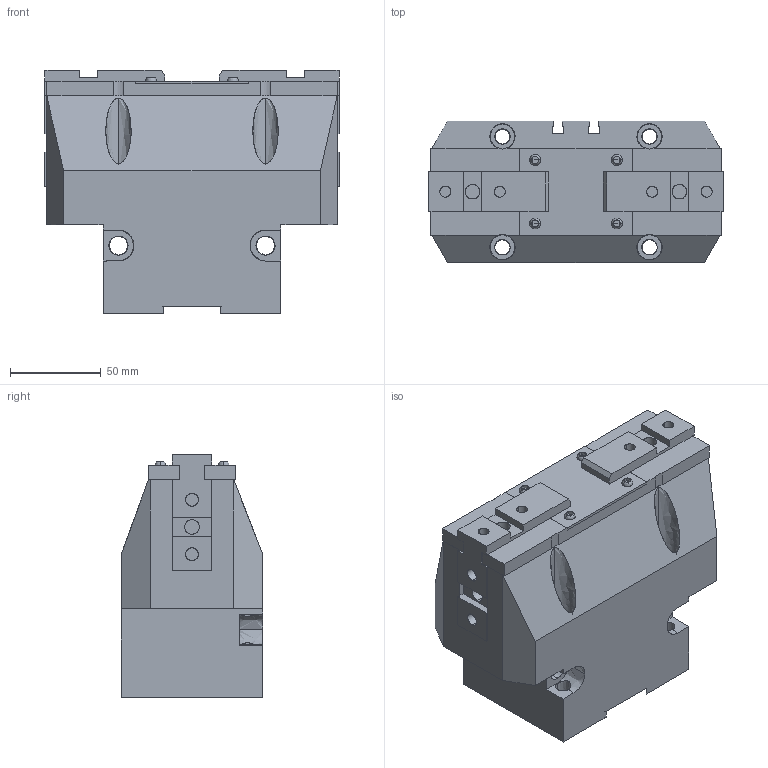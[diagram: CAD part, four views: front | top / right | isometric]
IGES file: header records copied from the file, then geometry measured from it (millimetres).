
Global section: file name: C:\Documents and Settings\Administrateur\Mes documents\OPE-160-SX-CLOSED.igs; native system: AutoCAD-16.0s (LMS Tech) (Microsoft Windows NT Version 5.1 (x86)); preprocessor: Autodesk IGES Translator Mechanical Desktop.R7.0.43.0 (Mar 18 2003) from Autodesk, Inc.; date: 20050629.143508; units: millimetre
Bounding box: 162 x 78 x 134 mm (x, y, z)
Surface area: 157427.6 mm2 (no closed solid volume)
Topology: 0 solids, 0 shells, 301 faces, 2903 edges, 2988 vertices
Faces by surface type: bspline 301
